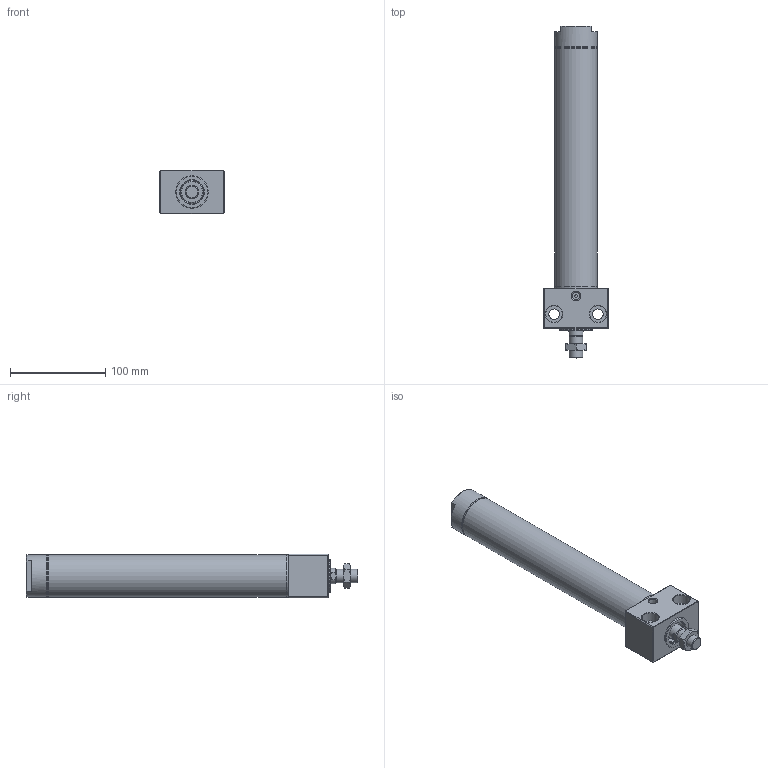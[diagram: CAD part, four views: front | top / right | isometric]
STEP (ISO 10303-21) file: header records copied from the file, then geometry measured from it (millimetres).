
FILE_DESCRIPTION((''),'2;1');
FILE_NAME('I:\3D電子目錄\氣缸\DBS\DBS\DBS40x200.stp','2007-10-08T08:49:46',('Administrator'),(''),'Autodesk Inventor 2008','Autodesk Inventor 2008','');
FILE_SCHEMA(('AUTOMOTIVE_DESIGN { 1 0 10303 214 1 1 1 1 }'));
Length unit declared in the file: millimetre
Products named in the file (1): DBS40x200
Bounding box: 68 x 348.6 x 46 mm (x, y, z)
Volume: 298219.3 mm3; surface area: 118181.1 mm2
Topology: 6 solids, 6 shells, 166 faces, 323 edges, 195 vertices
Faces by surface type: plane 74, cone 41, cylinder 35, bspline 13, torus 3
Full cylindrical faces by diameter (mm): 3 x1, 10.5 x1, 12 x1, 13 x1, 14 x2, 16 x1, 16.5 x1, 18 x1, 21 x2, 24 x3, 26 x2, 27.5 x1, 28 x2, 34 x1, 38 x2, 38.5 x2, 40 x1, 42.2 x6, 45 x4
Entity records: 3958 total; most frequent: CARTESIAN_POINT 865, DIRECTION 652, ORIENTED_EDGE 488, AXIS2_PLACEMENT_3D 287, EDGE_LOOP 280, EDGE_CURVE 244, VERTEX_POINT 188, FACE_OUTER_BOUND 166
